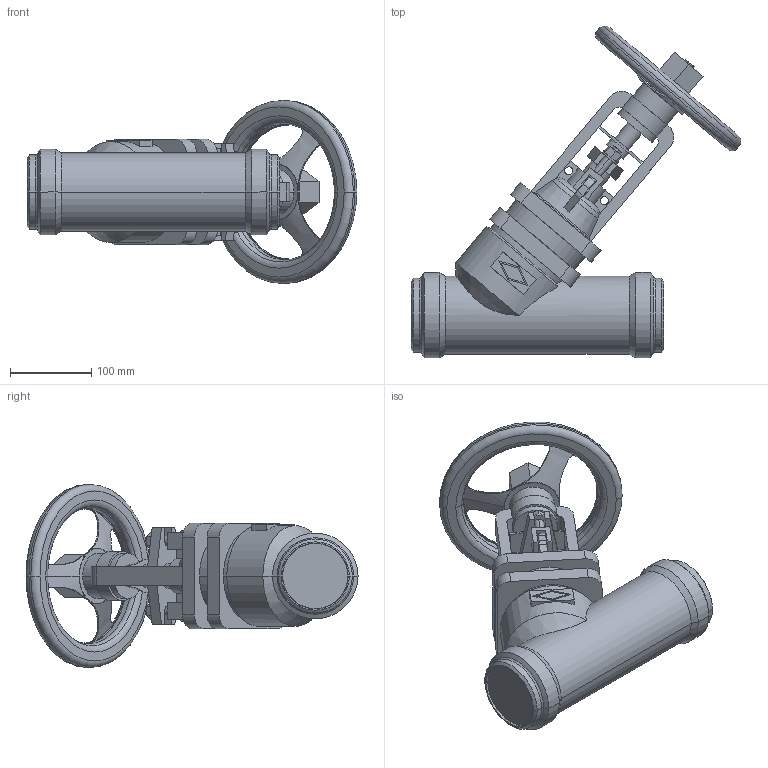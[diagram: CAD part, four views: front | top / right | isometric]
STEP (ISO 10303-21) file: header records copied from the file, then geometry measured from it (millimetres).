
FILE_DESCRIPTION(('OneSpaceDesigner STEP Export'),'2;1');
FILE_NAME('c000004353.stp','2010-05-10T10:57:28',(''),(''),'OneSpace Designer STEP processor for AP214 (Solid Model)','OneSpace Modeling 15.50B 03-Nov-2007 (C) CoCreate Software GmbH','');
FILE_SCHEMA(('AUTOMOTIVE_DESIGN { 1 0 10303 214 1 1 1 1 }'));
Length unit declared in the file: millimetre
Products named in the file (1): 1
Bounding box: 404.88 x 407.69 x 225 mm (x, y, z)
Volume: 4726617.4 mm3; surface area: 340376.6 mm2
Topology: 1 solids, 1 shells, 310 faces, 823 edges, 534 vertices
Faces by surface type: plane 144, cylinder 102, torus 36, cone 28
Entity records: 12389 total; most frequent: CARTESIAN_POINT 2668, ORIENTED_EDGE 1646, DIRECTION 1322, EDGE_CURVE 823, VERTEX_POINT 534, AXIS2_PLACEMENT_3D 452, VECTOR 418, LINE 418
